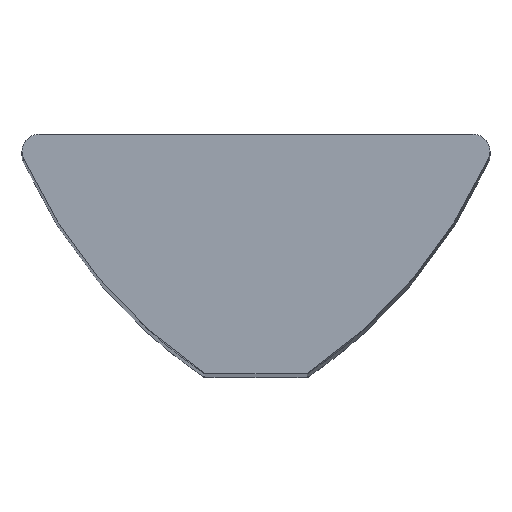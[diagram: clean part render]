
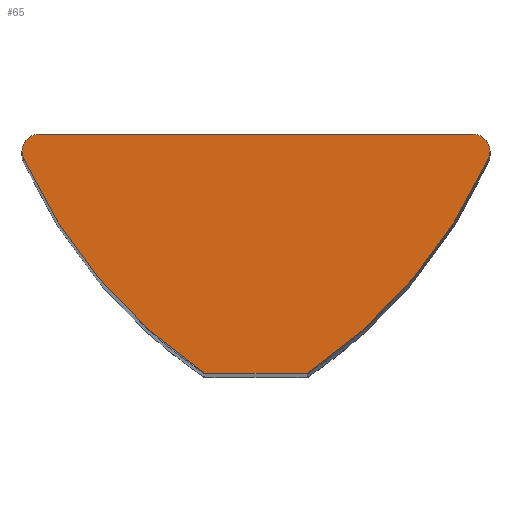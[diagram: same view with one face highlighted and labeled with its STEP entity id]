
A CAD part, top view. The second image highlights one B-rep face of the part: STEP entity #65.
In plain terms, the highlighted planar face has unit normal (0, 0, 1).
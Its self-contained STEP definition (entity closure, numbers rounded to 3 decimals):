
#65=ADVANCED_FACE('NONE',(#129),#130,.F.);
#129=FACE_OUTER_BOUND('',#187,.T.);
#130=PLANE('',#188);
#187=EDGE_LOOP('',(#317,#318,#319,#320,#321,#322,#323,#324));
#188=AXIS2_PLACEMENT_3D('',#325,#326,#327);
#317=ORIENTED_EDGE('',*,*,#396,.T.);
#318=ORIENTED_EDGE('',*,*,#365,.T.);
#319=ORIENTED_EDGE('',*,*,#402,.T.);
#320=ORIENTED_EDGE('',*,*,#406,.T.);
#321=ORIENTED_EDGE('',*,*,#381,.T.);
#322=ORIENTED_EDGE('',*,*,#410,.T.);
#323=ORIENTED_EDGE('',*,*,#415,.T.);
#324=ORIENTED_EDGE('',*,*,#420,.T.);
#325=CARTESIAN_POINT('',(6.35,-0.5,76.0));
#326=DIRECTION('',(-0.0,-0.0,-1.0));
#327=DIRECTION('',(0.0,-1.0,0.0));
#365=EDGE_CURVE('NONE',#428,#432,#434,.T.);
#381=EDGE_CURVE('NONE',#462,#463,#464,.T.);
#396=EDGE_CURVE('NONE',#486,#428,#487,.T.);
#402=EDGE_CURVE('NONE',#432,#494,#496,.T.);
#406=EDGE_CURVE('NONE',#494,#462,#500,.T.);
#410=EDGE_CURVE('NONE',#463,#503,#505,.T.);
#415=EDGE_CURVE('NONE',#503,#510,#512,.T.);
#420=EDGE_CURVE('NONE',#510,#486,#517,.T.);
#428=VERTEX_POINT('',#525);
#432=VERTEX_POINT('NONE',#530);
#434=CIRCLE('',#533,0.5);
#462=VERTEX_POINT('NONE',#619);
#463=VERTEX_POINT('NONE',#620);
#464=CIRCLE('',#621,0.5);
#486=VERTEX_POINT('NONE',#650);
#487=CIRCLE('',#651,0.5);
#494=VERTEX_POINT('NONE',#660);
#496=LINE('',#663,#664);
#500=CIRCLE('',#668,0.5);
#503=VERTEX_POINT('NONE',#671);
#505=CIRCLE('',#674,15.0);
#510=VERTEX_POINT('NONE',#679);
#512=LINE('',#682,#683);
#517=CIRCLE('',#740,15.0);
#525=CARTESIAN_POINT('',(6.85,-0.5,76.0));
#530=CARTESIAN_POINT('',(6.35,0.,76.0));
#533=AXIS2_PLACEMENT_3D('',#751,#752,#753);
#619=CARTESIAN_POINT('',(-6.85,-0.5,76.0));
#620=CARTESIAN_POINT('',(-6.806,-0.705,76.0));
#621=AXIS2_PLACEMENT_3D('',#776,#777,#778);
#650=CARTESIAN_POINT('',(6.806,-0.705,76.0));
#651=AXIS2_PLACEMENT_3D('',#798,#799,#800);
#660=CARTESIAN_POINT('',(-6.35,0.,76.0));
#663=CARTESIAN_POINT('',(6.35,0.,76.0));
#664=VECTOR('',#807,1000.0);
#668=AXIS2_PLACEMENT_3D('',#814,#815,#816);
#671=CARTESIAN_POINT('',(-1.5,-7.0,76.0));
#674=AXIS2_PLACEMENT_3D('',#821,#822,#823);
#679=CARTESIAN_POINT('',(1.5,-7.0,76.0));
#682=CARTESIAN_POINT('',(1.5,-7.0,76.0));
#683=VECTOR('',#831,1000.0);
#740=AXIS2_PLACEMENT_3D('',#835,#836,#837);
#751=CARTESIAN_POINT('',(6.35,-0.5,76.0));
#752=DIRECTION('',(0.0,0.0,1.0));
#753=DIRECTION('',(-1.0,0.0,0.0));
#776=CARTESIAN_POINT('',(-6.35,-0.5,76.0));
#777=DIRECTION('',(0.0,0.0,1.0));
#778=DIRECTION('',(1.0,0.0,0.0));
#798=CARTESIAN_POINT('',(6.35,-0.5,76.0));
#799=DIRECTION('',(0.0,0.0,1.0));
#800=DIRECTION('',(-1.0,0.0,0.0));
#807=DIRECTION('',(-1.0,0.,0.0));
#814=CARTESIAN_POINT('',(-6.35,-0.5,76.0));
#815=DIRECTION('',(0.0,0.0,1.0));
#816=DIRECTION('',(1.0,0.0,0.0));
#821=CARTESIAN_POINT('',(6.876,5.444,76.0));
#822=DIRECTION('',(0.0,0.0,1.0));
#823=DIRECTION('',(1.0,0.0,0.0));
#831=DIRECTION('',(1.0,-0.0,-0.0));
#835=CARTESIAN_POINT('',(-6.876,5.444,76.0));
#836=DIRECTION('',(0.0,0.0,1.0));
#837=DIRECTION('',(-1.0,0.0,0.0));
